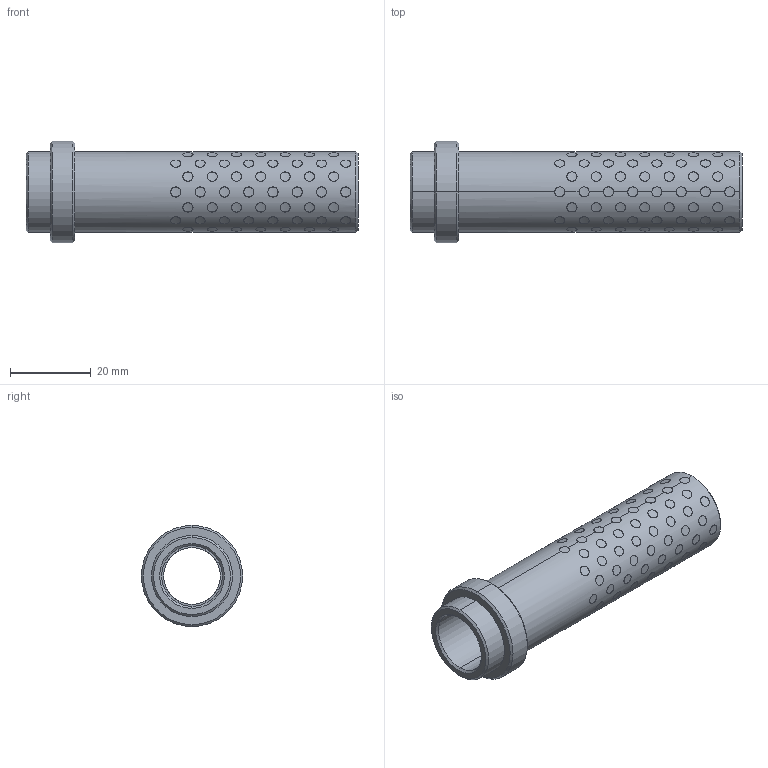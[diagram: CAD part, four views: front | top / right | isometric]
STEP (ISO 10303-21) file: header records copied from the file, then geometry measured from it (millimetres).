
FILE_DESCRIPTION((''),'2;1');
FILE_NAME('G31214076','2017-12-30T',('MANU'),(''),'PRO/ENGINEER BY PARAMETRIC TECHNOLOGY CORPORATION, 2012130','PRO/ENGINEER BY PARAMETRIC TECHNOLOGY CORPORATION, 2012130','');
FILE_SCHEMA(('CONFIG_CONTROL_DESIGN'));
Length unit declared in the file: millimetre
Products named in the file (1): G31214076
Bounding box: 82 x 25 x 25 mm (x, y, z)
Volume: 13356.3 mm3; surface area: 15179 mm2
Topology: 121 solids, 121 shells, 747 faces, 1590 edges, 1056 vertices
Faces by surface type: cylinder 730, cone 12, plane 5
Entity records: 34314 total; most frequent: CARTESIAN_POINT 19793, ORIENTED_EDGE 3180, DIRECTION 2092, EDGE_CURVE 1590, VERTEX_POINT 1056, B_SPLINE_CURVE_WITH_KNOTS 1024, EDGE_LOOP 960, AXIS2_PLACEMENT_3D 779
